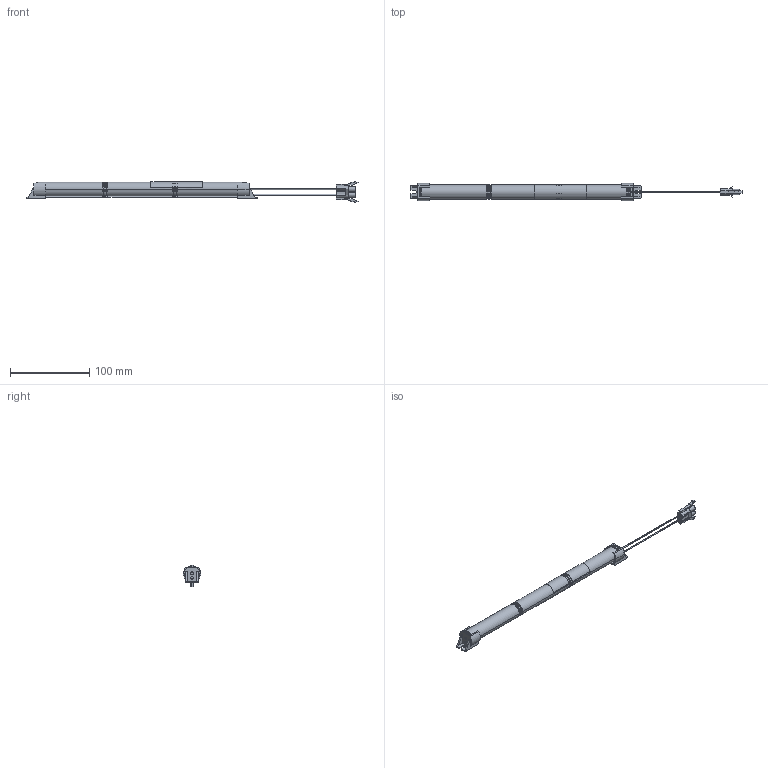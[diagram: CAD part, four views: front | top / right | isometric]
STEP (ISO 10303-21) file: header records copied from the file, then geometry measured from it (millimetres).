
FILE_DESCRIPTION((''),'2;1');
FILE_NAME('15013956Z_DMEC89800441_3XRND_D','2021-07-20T15:25:16',('Juergen.Hrach'),(''),'CREO PARAMETRIC BY PTC INC, 2019164','CREO PARAMETRIC BY PTC INC, 2019164','');
FILE_SCHEMA(('CONFIG_CONTROL_DESIGN'));
Length unit declared in the file: millimetre
Products named in the file (1): 15013956Z_DMEC89800441_3XRND_D
Bounding box: 419.2 x 21.96 x 27 mm (x, y, z)
Volume: 73631.1 mm3; surface area: 27170.6 mm2
Topology: 5 solids, 5 shells, 278 faces, 725 edges, 462 vertices
Faces by surface type: plane 135, cylinder 99, torus 44
Entity records: 8750 total; most frequent: CARTESIAN_POINT 1626, DIRECTION 1565, ORIENTED_EDGE 1450, EDGE_CURVE 725, AXIS2_PLACEMENT_3D 584, VERTEX_POINT 462, VECTOR 397, LINE 397
